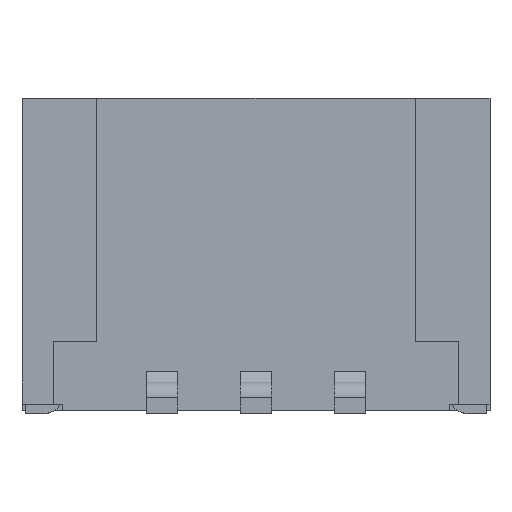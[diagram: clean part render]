
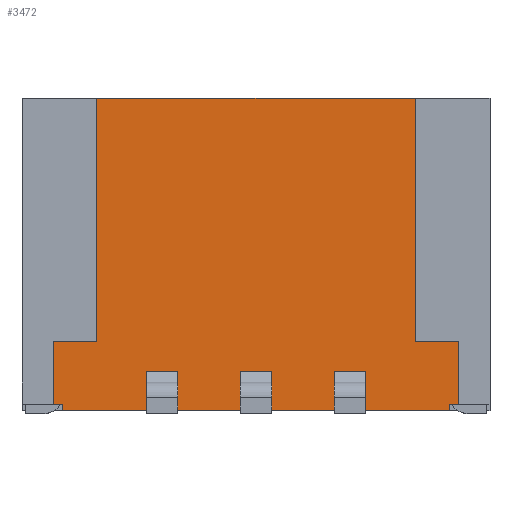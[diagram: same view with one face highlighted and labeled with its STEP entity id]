
A CAD part, top view. The second image highlights one B-rep face of the part: STEP entity #3472.
In plain terms, the highlighted planar face has unit normal (0, 0, 1).
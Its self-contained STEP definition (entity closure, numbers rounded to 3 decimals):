
#111=DIRECTION('',(-1.,0.,0.));
#112=VECTOR('',#111,5.1);
#113=CARTESIAN_POINT('',(10.8,5.,-0.1));
#114=LINE('',#113,#112);
#115=DIRECTION('',(1.,0.,0.));
#116=VECTOR('',#115,1.);
#117=CARTESIAN_POINT('',(7.,0.,-0.1));
#118=LINE('',#117,#116);
#119=DIRECTION('',(1.,0.,0.));
#120=VECTOR('',#119,1.35);
#121=CARTESIAN_POINT('',(5.15,0.,-0.1));
#122=LINE('',#121,#120);
#123=DIRECTION('',(0.,-1.,0.));
#124=VECTOR('',#123,0.1);
#125=CARTESIAN_POINT('',(5.15,0.1,-0.1));
#126=LINE('',#125,#124);
#127=DIRECTION('',(0.,-1.,0.));
#128=VECTOR('',#127,0.1);
#129=CARTESIAN_POINT('',(11.35,0.1,-0.1));
#130=LINE('',#129,#128);
#131=DIRECTION('',(-1.,0.,0.));
#132=VECTOR('',#131,1.35);
#133=CARTESIAN_POINT('',(11.35,0.,-0.1));
#134=LINE('',#133,#132);
#135=DIRECTION('',(-1.,0.,0.));
#136=VECTOR('',#135,1.);
#137=CARTESIAN_POINT('',(9.5,0.,-0.1));
#138=LINE('',#137,#136);
#143=DIRECTION('',(1.,0.,0.));
#144=VECTOR('',#143,0.5);
#145=CARTESIAN_POINT('',(8.,0.629,-0.1));
#146=LINE('',#145,#144);
#1237=DIRECTION('',(-1.,0.,0.));
#1238=VECTOR('',#1237,0.15);
#1239=CARTESIAN_POINT('',(5.15,0.1,-0.1));
#1240=LINE('',#1239,#1238);
#1253=DIRECTION('',(0.,1.,0.));
#1254=VECTOR('',#1253,1.);
#1255=CARTESIAN_POINT('',(5.,0.1,-0.1));
#1256=LINE('',#1255,#1254);
#1257=DIRECTION('',(1.,0.,0.));
#1258=VECTOR('',#1257,0.7);
#1259=CARTESIAN_POINT('',(5.,1.1,-0.1));
#1260=LINE('',#1259,#1258);
#1273=DIRECTION('',(0.,1.,0.));
#1274=VECTOR('',#1273,3.9);
#1275=CARTESIAN_POINT('',(5.7,1.1,-0.1));
#1276=LINE('',#1275,#1274);
#1693=DIRECTION('',(1.,0.,0.));
#1694=VECTOR('',#1693,0.15);
#1695=CARTESIAN_POINT('',(11.35,0.1,-0.1));
#1696=LINE('',#1695,#1694);
#1709=DIRECTION('',(0.,1.,0.));
#1710=VECTOR('',#1709,1.);
#1711=CARTESIAN_POINT('',(11.5,0.1,-0.1));
#1712=LINE('',#1711,#1710);
#1717=DIRECTION('',(-1.,0.,0.));
#1718=VECTOR('',#1717,0.7);
#1719=CARTESIAN_POINT('',(11.5,1.1,-0.1));
#1720=LINE('',#1719,#1718);
#1745=DIRECTION('',(0.,1.,0.));
#1746=VECTOR('',#1745,3.9);
#1747=CARTESIAN_POINT('',(10.8,1.1,-0.1));
#1748=LINE('',#1747,#1746);
#1785=DIRECTION('',(0.,-1.,0.));
#1786=VECTOR('',#1785,0.629);
#1787=CARTESIAN_POINT('',(6.5,0.629,-0.1));
#1788=LINE('',#1787,#1786);
#1865=DIRECTION('',(-1.,0.,0.));
#1866=VECTOR('',#1865,0.5);
#1867=CARTESIAN_POINT('',(7.,0.629,-0.1));
#1868=LINE('',#1867,#1866);
#1890=DIRECTION('',(0.,-1.,0.));
#1891=VECTOR('',#1890,0.629);
#1892=CARTESIAN_POINT('',(7.,0.629,-0.1));
#1893=LINE('',#1892,#1891);
#2033=DIRECTION('',(0.,-1.,0.));
#2034=VECTOR('',#2033,0.629);
#2035=CARTESIAN_POINT('',(8.,0.629,-0.1));
#2036=LINE('',#2035,#2034);
#2128=DIRECTION('',(0.,-1.,0.));
#2129=VECTOR('',#2128,0.629);
#2130=CARTESIAN_POINT('',(8.5,0.629,-0.1));
#2131=LINE('',#2130,#2129);
#2181=DIRECTION('',(0.,-1.,0.));
#2182=VECTOR('',#2181,0.629);
#2183=CARTESIAN_POINT('',(9.5,0.629,-0.1));
#2184=LINE('',#2183,#2182);
#2237=DIRECTION('',(1.,0.,0.));
#2238=VECTOR('',#2237,0.5);
#2239=CARTESIAN_POINT('',(9.5,0.629,-0.1));
#2240=LINE('',#2239,#2238);
#2278=DIRECTION('',(0.,-1.,0.));
#2279=VECTOR('',#2278,0.629);
#2280=CARTESIAN_POINT('',(10.,0.629,-0.1));
#2281=LINE('',#2280,#2279);
#2641=CARTESIAN_POINT('',(11.35,0.,-0.1));
#2643=VERTEX_POINT('',#2641);
#2645=CARTESIAN_POINT('',(11.35,0.1,-0.1));
#2646=VERTEX_POINT('',#2645);
#2655=CARTESIAN_POINT('',(11.5,0.1,-0.1));
#2656=VERTEX_POINT('',#2655);
#2659=CARTESIAN_POINT('',(11.5,1.1,-0.1));
#2660=VERTEX_POINT('',#2659);
#2665=CARTESIAN_POINT('',(10.8,1.1,-0.1));
#2666=VERTEX_POINT('',#2665);
#2673=CARTESIAN_POINT('',(10.8,5.,-0.1));
#2674=VERTEX_POINT('',#2673);
#2740=CARTESIAN_POINT('',(9.5,0.,-0.1));
#2742=VERTEX_POINT('',#2740);
#2747=CARTESIAN_POINT('',(9.5,0.629,-0.1));
#2748=VERTEX_POINT('',#2747);
#2753=CARTESIAN_POINT('',(10.,0.629,-0.1));
#2754=VERTEX_POINT('',#2753);
#2755=CARTESIAN_POINT('',(10.,0.,-0.1));
#2756=VERTEX_POINT('',#2755);
#2760=CARTESIAN_POINT('',(8.5,0.,-0.1));
#2762=VERTEX_POINT('',#2760);
#2767=CARTESIAN_POINT('',(8.5,0.629,-0.1));
#2768=VERTEX_POINT('',#2767);
#2965=CARTESIAN_POINT('',(5.15,0.,-0.1));
#2967=VERTEX_POINT('',#2965);
#2969=CARTESIAN_POINT('',(5.15,0.1,-0.1));
#2970=VERTEX_POINT('',#2969);
#2979=CARTESIAN_POINT('',(5.,0.1,-0.1));
#2980=VERTEX_POINT('',#2979);
#2983=CARTESIAN_POINT('',(5.,1.1,-0.1));
#2984=VERTEX_POINT('',#2983);
#2989=CARTESIAN_POINT('',(5.7,1.1,-0.1));
#2990=VERTEX_POINT('',#2989);
#2997=CARTESIAN_POINT('',(5.7,5.,-0.1));
#2998=VERTEX_POINT('',#2997);
#3062=CARTESIAN_POINT('',(7.,0.,-0.1));
#3064=VERTEX_POINT('',#3062);
#3069=CARTESIAN_POINT('',(7.,0.629,-0.1));
#3070=VERTEX_POINT('',#3069);
#3075=CARTESIAN_POINT('',(6.5,0.629,-0.1));
#3076=VERTEX_POINT('',#3075);
#3077=CARTESIAN_POINT('',(6.5,0.,-0.1));
#3078=VERTEX_POINT('',#3077);
#3154=CARTESIAN_POINT('',(8.,0.,-0.1));
#3156=VERTEX_POINT('',#3154);
#3161=CARTESIAN_POINT('',(8.,0.629,-0.1));
#3162=VERTEX_POINT('',#3161);
#3418=CARTESIAN_POINT('',(6.,2.5,-0.1));
#3419=DIRECTION('',(0.,0.,1.));
#3420=DIRECTION('',(1.,0.,0.));
#3421=AXIS2_PLACEMENT_3D('',#3418,#3419,#3420);
#3422=PLANE('',#3421);
#3424=ORIENTED_EDGE('',*,*,#3423,.F.);
#3426=ORIENTED_EDGE('',*,*,#3425,.T.);
#3428=ORIENTED_EDGE('',*,*,#3427,.F.);
#3430=ORIENTED_EDGE('',*,*,#3429,.F.);
#3432=ORIENTED_EDGE('',*,*,#3431,.T.);
#3434=ORIENTED_EDGE('',*,*,#3433,.T.);
#3436=ORIENTED_EDGE('',*,*,#3435,.F.);
#3438=ORIENTED_EDGE('',*,*,#3437,.F.);
#3440=ORIENTED_EDGE('',*,*,#3439,.T.);
#3442=ORIENTED_EDGE('',*,*,#3441,.T.);
#3444=ORIENTED_EDGE('',*,*,#3443,.T.);
#3446=ORIENTED_EDGE('',*,*,#3445,.T.);
#3447=ORIENTED_EDGE('',*,*,#3376,.F.);
#3449=ORIENTED_EDGE('',*,*,#3448,.F.);
#3451=ORIENTED_EDGE('',*,*,#3450,.F.);
#3453=ORIENTED_EDGE('',*,*,#3452,.F.);
#3455=ORIENTED_EDGE('',*,*,#3454,.F.);
#3457=ORIENTED_EDGE('',*,*,#3456,.T.);
#3459=ORIENTED_EDGE('',*,*,#3458,.T.);
#3461=ORIENTED_EDGE('',*,*,#3460,.F.);
#3463=ORIENTED_EDGE('',*,*,#3462,.F.);
#3465=ORIENTED_EDGE('',*,*,#3464,.T.);
#3467=ORIENTED_EDGE('',*,*,#3466,.T.);
#3469=ORIENTED_EDGE('',*,*,#3468,.F.);
#3470=EDGE_LOOP('',(#3424,#3426,#3428,#3430,#3432,#3434,#3436,#3438,#3440,#3442,
#3444,#3446,#3447,#3449,#3451,#3453,#3455,#3457,#3459,#3461,#3463,#3465,#3467,
#3469));
#3471=FACE_OUTER_BOUND('',#3470,.F.);
#3472=ADVANCED_FACE('',(#3471),#3422,.T.);
#3376=EDGE_CURVE('',#2674,#2998,#114,.T.);
#3423=EDGE_CURVE('',#3162,#2768,#146,.T.);
#3425=EDGE_CURVE('',#3162,#3156,#2036,.T.);
#3427=EDGE_CURVE('',#3064,#3156,#118,.T.);
#3429=EDGE_CURVE('',#3070,#3064,#1893,.T.);
#3431=EDGE_CURVE('',#3070,#3076,#1868,.T.);
#3433=EDGE_CURVE('',#3076,#3078,#1788,.T.);
#3435=EDGE_CURVE('',#2967,#3078,#122,.T.);
#3437=EDGE_CURVE('',#2970,#2967,#126,.T.);
#3439=EDGE_CURVE('',#2970,#2980,#1240,.T.);
#3441=EDGE_CURVE('',#2980,#2984,#1256,.T.);
#3443=EDGE_CURVE('',#2984,#2990,#1260,.T.);
#3445=EDGE_CURVE('',#2990,#2998,#1276,.T.);
#3448=EDGE_CURVE('',#2666,#2674,#1748,.T.);
#3450=EDGE_CURVE('',#2660,#2666,#1720,.T.);
#3452=EDGE_CURVE('',#2656,#2660,#1712,.T.);
#3454=EDGE_CURVE('',#2646,#2656,#1696,.T.);
#3456=EDGE_CURVE('',#2646,#2643,#130,.T.);
#3458=EDGE_CURVE('',#2643,#2756,#134,.T.);
#3460=EDGE_CURVE('',#2754,#2756,#2281,.T.);
#3462=EDGE_CURVE('',#2748,#2754,#2240,.T.);
#3464=EDGE_CURVE('',#2748,#2742,#2184,.T.);
#3466=EDGE_CURVE('',#2742,#2762,#138,.T.);
#3468=EDGE_CURVE('',#2768,#2762,#2131,.T.);
